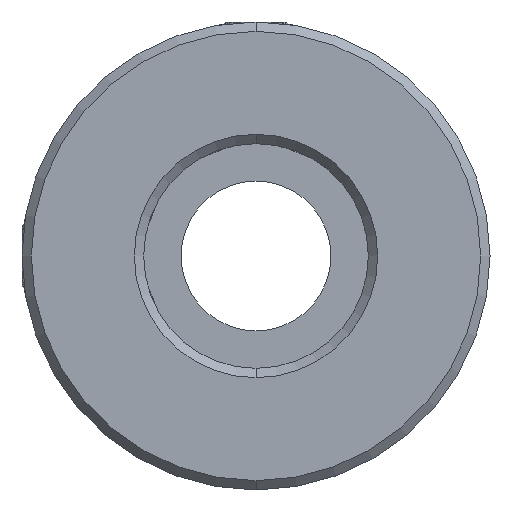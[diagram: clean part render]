
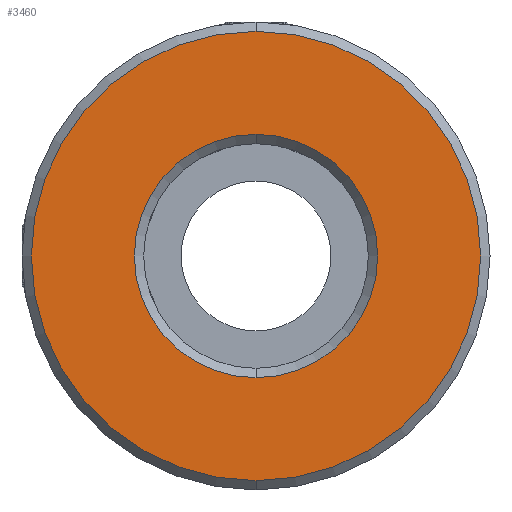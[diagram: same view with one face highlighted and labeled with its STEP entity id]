
A CAD part, front view. The second image highlights one B-rep face of the part: STEP entity #3460.
In plain terms, the highlighted planar face has unit normal (0, -1, 0).
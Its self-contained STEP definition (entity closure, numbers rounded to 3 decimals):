
#71 = EDGE_CURVE ( 'NONE', #2339, #2674, #2651, .T. ) ;
#149 = CIRCLE ( 'NONE', #2733, 6.5 ) ;
#331 = EDGE_LOOP ( 'NONE', ( #1161, #640 ) ) ;
#339 = DIRECTION ( 'NONE',  ( 0., 0., 1. ) ) ;
#640 = ORIENTED_EDGE ( 'NONE', *, *, #1845, .T. ) ;
#696 = CARTESIAN_POINT ( 'NONE',  ( -10.188, -0.277, 12.046 ) ) ;
#890 = DIRECTION ( 'NONE',  ( 0., 1., 0. ) ) ;
#986 = AXIS2_PLACEMENT_3D ( 'NONE', #1155, #890, #1433 ) ;
#1036 = AXIS2_PLACEMENT_3D ( 'NONE', #2877, #2839, #1955 ) ;
#1071 = FACE_OUTER_BOUND ( 'NONE', #1182, .T. ) ;
#1155 = CARTESIAN_POINT ( 'NONE',  ( -10.188, -0.277, 0.046 ) ) ;
#1161 = ORIENTED_EDGE ( 'NONE', *, *, #1790, .T. ) ;
#1182 = EDGE_LOOP ( 'NONE', ( #2221, #2272 ) ) ;
#1233 = CIRCLE ( 'NONE', #1294, 12. ) ;
#1294 = AXIS2_PLACEMENT_3D ( 'NONE', #2174, #3002, #2467 ) ;
#1348 = CARTESIAN_POINT ( 'NONE',  ( -10.188, -0.277, 6.546 ) ) ;
#1433 = DIRECTION ( 'NONE',  ( 0., 0., 1. ) ) ;
#1455 = CARTESIAN_POINT ( 'NONE',  ( -10.188, -0.277, 0.046 ) ) ;
#1464 = CIRCLE ( 'NONE', #986, 6.5 ) ;
#1704 = VERTEX_POINT ( 'NONE', #1348 ) ;
#1787 = CARTESIAN_POINT ( 'NONE',  ( -10.188, -0.277, -6.454 ) ) ;
#1790 = EDGE_CURVE ( 'NONE', #2283, #1704, #1464, .T. ) ;
#1845 = EDGE_CURVE ( 'NONE', #1704, #2283, #149, .T. ) ;
#1946 = EDGE_CURVE ( 'NONE', #2674, #2339, #1233, .T. ) ;
#1955 = DIRECTION ( 'NONE',  ( 0., 0., 1. ) ) ;
#2024 = CARTESIAN_POINT ( 'NONE',  ( -10.188, -0.277, 0.046 ) ) ;
#2039 = DIRECTION ( 'NONE',  ( 0., 1., 0. ) ) ;
#2174 = CARTESIAN_POINT ( 'NONE',  ( -10.188, -0.277, 0.046 ) ) ;
#2217 = FACE_BOUND ( 'NONE', #331, .T. ) ;
#2221 = ORIENTED_EDGE ( 'NONE', *, *, #1946, .T. ) ;
#2272 = ORIENTED_EDGE ( 'NONE', *, *, #71, .T. ) ;
#2283 = VERTEX_POINT ( 'NONE', #1787 ) ;
#2339 = VERTEX_POINT ( 'NONE', #3052 ) ;
#2467 = DIRECTION ( 'NONE',  ( 0., 0., 1. ) ) ;
#2625 = DIRECTION ( 'NONE',  ( 0., 0., 1. ) ) ;
#2651 = CIRCLE ( 'NONE', #1036, 12. ) ;
#2660 = DIRECTION ( 'NONE',  ( 0., 1., 0. ) ) ;
#2674 = VERTEX_POINT ( 'NONE', #696 ) ;
#2733 = AXIS2_PLACEMENT_3D ( 'NONE', #2024, #2039, #339 ) ;
#2839 = DIRECTION ( 'NONE',  ( 0., -1., 0. ) ) ;
#2877 = CARTESIAN_POINT ( 'NONE',  ( -10.188, -0.277, 0.046 ) ) ;
#3002 = DIRECTION ( 'NONE',  ( 0., -1., 0. ) ) ;
#3052 = CARTESIAN_POINT ( 'NONE',  ( -10.188, -0.277, -11.954 ) ) ;
#3203 = AXIS2_PLACEMENT_3D ( 'NONE', #1455, #2660, #2625 ) ;
#3375 = PLANE ( 'NONE',  #3203 ) ;
#3460 = ADVANCED_FACE ( 'NONE', ( #1071, #2217 ), #3375, .F. ) ;
